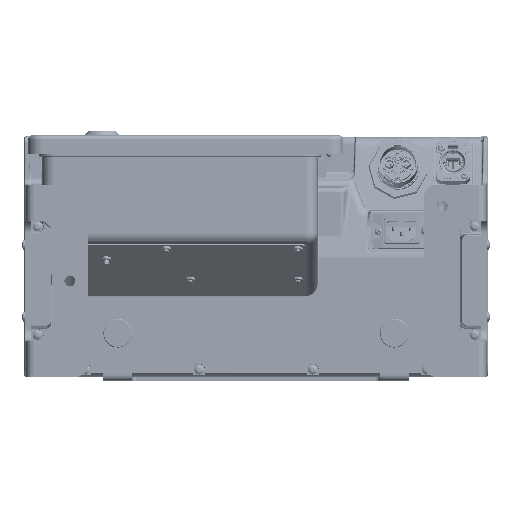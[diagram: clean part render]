
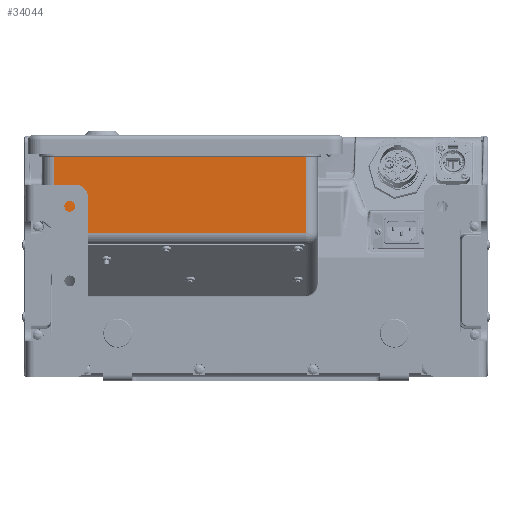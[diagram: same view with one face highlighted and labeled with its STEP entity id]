
A CAD part, front view. The second image highlights one B-rep face of the part: STEP entity #34044.
In plain terms, the highlighted planar face has unit normal (0, -1, 0).
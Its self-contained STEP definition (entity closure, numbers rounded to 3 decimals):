
#6714 = CARTESIAN_POINT ( 'NONE',  ( -148., -187.23, 152.787 ) ) ;
#13773 = CARTESIAN_POINT ( 'NONE',  ( -356., -187.23, 152.787 ) ) ;
#16953 = CARTESIAN_POINT ( 'NONE',  ( -356., -187.23, 152.787 ) ) ;
#20828 = ORIENTED_EDGE ( 'NONE', *, *, #118841, .T. ) ;
#34044 = ADVANCED_FACE ( 'NONE', ( #57485 ), #216779, .T. ) ;
#37995 = VECTOR ( 'NONE', #131415, 1000. ) ;
#41671 = CARTESIAN_POINT ( 'NONE',  ( -349.005, -187.23, 99.867 ) ) ;
#43735 = CARTESIAN_POINT ( 'NONE',  ( -357., -187.23, 152.787 ) ) ;
#57485 = FACE_OUTER_BOUND ( 'NONE', #62162, .T. ) ;
#62162 = EDGE_LOOP ( 'NONE', ( #215990, #471509, #187845, #168389, #453107, #349678, #20828, #89752 ) ) ;
#70079 = VERTEX_POINT ( 'NONE', #415944 ) ;
#75233 = B_SPLINE_CURVE_WITH_KNOTS ( 'NONE', 3,
 ( #87717, #492444, #246968, #6714 ),
 .UNSPECIFIED., .F., .F.,
 ( 4, 4 ),
 ( 0.002, 0.003 ),
 .UNSPECIFIED. ) ;
#78329 = CARTESIAN_POINT ( 'NONE',  ( -343.649, -187.23, 96.775 ) ) ;
#86036 = CARTESIAN_POINT ( 'NONE',  ( -340.032, -187.23, 85.332 ) ) ;
#87717 = CARTESIAN_POINT ( 'NONE',  ( -147., -187.23, 152.749 ) ) ;
#88083 = VERTEX_POINT ( 'NONE', #335418 ) ;
#89752 = ORIENTED_EDGE ( 'NONE', *, *, #116069, .T. ) ;
#90775 = DIRECTION ( 'NONE',  ( 0., 0., 1. ) ) ;
#101862 = DIRECTION ( 'NONE',  ( -1., 0., 0. ) ) ;
#116069 = EDGE_CURVE ( 'NONE', #468473, #353839, #429446, .T. ) ;
#118841 = EDGE_CURVE ( 'NONE', #152589, #468473, #278099, .T. ) ;
#131415 = DIRECTION ( 'NONE',  ( 0., 0., 1. ) ) ;
#136037 = CARTESIAN_POINT ( 'NONE',  ( -369.132, -187.23, 111.487 ) ) ;
#137267 = EDGE_CURVE ( 'NONE', #340928, #476360, #207488, .T. ) ;
#139078 = LINE ( 'NONE', #298375, #37995 ) ;
#152123 = CARTESIAN_POINT ( 'NONE',  ( -349.005, -187.23, 99.867 ) ) ;
#152589 = VERTEX_POINT ( 'NONE', #152123 ) ;
#164331 = CARTESIAN_POINT ( 'NONE',  ( -340.399, -187.23, 91.51 ) ) ;
#166022 = CARTESIAN_POINT ( 'NONE',  ( -147., -187.23, 85.332 ) ) ;
#168389 = ORIENTED_EDGE ( 'NONE', *, *, #137267, .T. ) ;
#169042 = EDGE_CURVE ( 'NONE', #378922, #70079, #75233, .T. ) ;
#173126 = CARTESIAN_POINT ( 'NONE',  ( -357., -187.23, 152.749 ) ) ;
#180345 = LINE ( 'NONE', #136037, #259242 ) ;
#185053 = EDGE_CURVE ( 'NONE', #70079, #340928, #433068, .T. ) ;
#187845 = ORIENTED_EDGE ( 'NONE', *, *, #185053, .T. ) ;
#207488 = B_SPLINE_CURVE_WITH_KNOTS ( 'NONE', 3,
 ( #13773, #455189, #405731, #173126 ),
 .UNSPECIFIED., .F., .F.,
 ( 4, 4 ),
 ( 0.002, 0.003 ),
 .UNSPECIFIED. ) ;
#215941 = CARTESIAN_POINT ( 'NONE',  ( -357., -187.23, 132.5 ) ) ;
#215990 = ORIENTED_EDGE ( 'NONE', *, *, #217952, .T. ) ;
#216779 = PLANE ( 'NONE',  #512837 ) ;
#216793 = CARTESIAN_POINT ( 'NONE',  ( -340.032, -187.23, 85.332 ) ) ;
#217952 = EDGE_CURVE ( 'NONE', #353839, #378922, #139078, .T. ) ;
#246968 = CARTESIAN_POINT ( 'NONE',  ( -147.666, -187.23, 152.787 ) ) ;
#259242 = VECTOR ( 'NONE', #423274, 1000. ) ;
#278099 =( BOUNDED_CURVE ( )  B_SPLINE_CURVE ( 3, ( #41671, #78329, #164331, #86036 ),
 .UNSPECIFIED., .F., .T. ) 
 B_SPLINE_CURVE_WITH_KNOTS ( ( 4, 4 ),
 ( 3.665, 4.653 ),
 .UNSPECIFIED. ) 
 CURVE ( )  GEOMETRIC_REPRESENTATION_ITEM ( )  RATIONAL_B_SPLINE_CURVE ( ( 1., 0.92, 0.92, 1. ) ) 
 REPRESENTATION_ITEM ( '' )  );
#286395 = CARTESIAN_POINT ( 'NONE',  ( -357., -187.23, 152.749 ) ) ;
#298375 = CARTESIAN_POINT ( 'NONE',  ( -147., -187.23, 132.5 ) ) ;
#311840 = DIRECTION ( 'NONE',  ( 1., 0., 0. ) ) ;
#335418 = CARTESIAN_POINT ( 'NONE',  ( -357., -187.23, 104.483 ) ) ;
#340928 = VERTEX_POINT ( 'NONE', #16953 ) ;
#349678 = ORIENTED_EDGE ( 'NONE', *, *, #482086, .T. ) ;
#353839 = VERTEX_POINT ( 'NONE', #166022 ) ;
#355036 = VECTOR ( 'NONE', #90775, 1000. ) ;
#376078 = CARTESIAN_POINT ( 'NONE',  ( -357., -187.23, 132.5 ) ) ;
#378922 = VERTEX_POINT ( 'NONE', #415013 ) ;
#401579 = DIRECTION ( 'NONE',  ( -1., 0., 0. ) ) ;
#402103 = EDGE_CURVE ( 'NONE', #88083, #476360, #456267, .T. ) ;
#405731 = CARTESIAN_POINT ( 'NONE',  ( -356.667, -187.23, 152.775 ) ) ;
#415013 = CARTESIAN_POINT ( 'NONE',  ( -147., -187.23, 152.749 ) ) ;
#415944 = CARTESIAN_POINT ( 'NONE',  ( -148., -187.23, 152.787 ) ) ;
#423274 = DIRECTION ( 'NONE',  ( 0.866, 0., -0.5 ) ) ;
#424928 = VECTOR ( 'NONE', #311840, 1000. ) ;
#429446 = LINE ( 'NONE', #507890, #424928 ) ;
#433068 = LINE ( 'NONE', #43735, #475029 ) ;
#453107 = ORIENTED_EDGE ( 'NONE', *, *, #402103, .F. ) ;
#455189 = CARTESIAN_POINT ( 'NONE',  ( -356.334, -187.23, 152.787 ) ) ;
#456267 = LINE ( 'NONE', #215941, #355036 ) ;
#468473 = VERTEX_POINT ( 'NONE', #216793 ) ;
#471509 = ORIENTED_EDGE ( 'NONE', *, *, #169042, .T. ) ;
#475029 = VECTOR ( 'NONE', #401579, 1000. ) ;
#476360 = VERTEX_POINT ( 'NONE', #286395 ) ;
#482086 = EDGE_CURVE ( 'NONE', #88083, #152589, #180345, .T. ) ;
#492444 = CARTESIAN_POINT ( 'NONE',  ( -147.333, -187.23, 152.775 ) ) ;
#493703 = DIRECTION ( 'NONE',  ( 0., -1., 0. ) ) ;
#507890 = CARTESIAN_POINT ( 'NONE',  ( -357., -187.23, 85.332 ) ) ;
#512837 = AXIS2_PLACEMENT_3D ( 'NONE', #376078, #493703, #101862 ) ;
